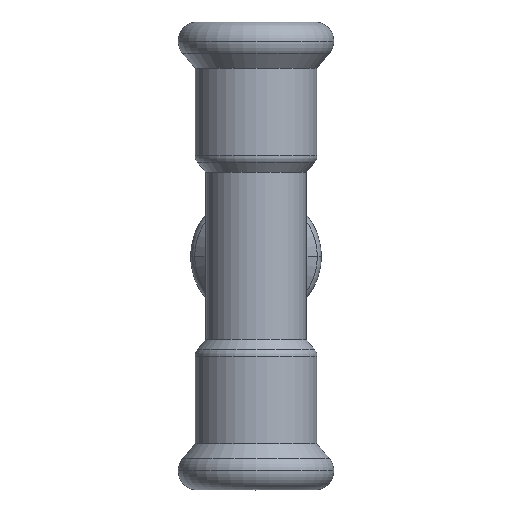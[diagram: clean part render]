
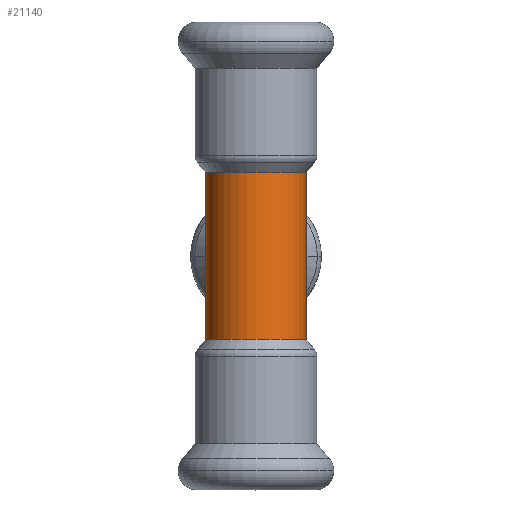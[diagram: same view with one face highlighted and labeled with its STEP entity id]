
A CAD part, top view. The second image highlights one B-rep face of the part: STEP entity #21140.
In plain terms, the highlighted cylindrical face has radius 7.5 mm (diameter 15 mm), a partial arc.
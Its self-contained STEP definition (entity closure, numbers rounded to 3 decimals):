
#2830=CARTESIAN_POINT('',(-98.071,15.24,
12.5));
#2840=DIRECTION('',(0.,0.,1.));
#2850=DIRECTION('',(-1.,0.,0.));
#2860=AXIS2_PLACEMENT_3D('',#2830,#2840,#2850);
#2870=CYLINDRICAL_SURFACE('',#2860,7.5);
#7060=CARTESIAN_POINT('',(-90.571,15.24,
12.5));
#7070=VERTEX_POINT('',#7060);
#7250=CARTESIAN_POINT('',(-105.571,15.24,
12.5));
#7260=VERTEX_POINT('',#7250);
#7290=CARTESIAN_POINT('',(-98.071,15.24,
12.5));
#7300=DIRECTION('',(0.,0.,1.));
#7310=DIRECTION('',(-1.,0.,0.));
#7320=AXIS2_PLACEMENT_3D('',#7290,#7300,#7310);
#7330=CIRCLE('',#7320,7.5);
#8270=CARTESIAN_POINT('',(-105.571,15.24,
-12.5));
#8280=VERTEX_POINT('',#8270);
#8360=CARTESIAN_POINT('',(-90.571,15.24,
-12.5));
#8370=VERTEX_POINT('',#8360);
#8400=CARTESIAN_POINT('',(-98.071,15.24,
-12.5));
#8410=DIRECTION('',(0.,0.,1.));
#8420=DIRECTION('',(-1.,0.,0.));
#8430=AXIS2_PLACEMENT_3D('',#8400,#8410,#8420);
#8440=CIRCLE('',#8430,7.5);
#15560=CARTESIAN_POINT('',(-90.571,15.24,
12.5));
#15570=DIRECTION('',(0.,0.,1.));
#15580=VECTOR('',#15570,1.);
#15590=LINE('',#15560,#15580);
#15600=EDGE_CURVE('',#8370,#7070,#15590,.T.);
#15630=CARTESIAN_POINT('',(-105.571,15.24,
12.5));
#15640=DIRECTION('',(0.,0.,1.));
#15650=VECTOR('',#15640,1.);
#15660=LINE('',#15630,#15650);
#15670=EDGE_CURVE('',#8280,#7260,#15660,.T.);
#21060=EDGE_CURVE('',#7260,#7070,#7330,.T.);
#21070=ORIENTED_EDGE('',*,*,#21060,.F.);
#21080=ORIENTED_EDGE('',*,*,#15600,.T.);
#21090=EDGE_CURVE('',#8280,#8370,#8440,.T.);
#21100=ORIENTED_EDGE('',*,*,#21090,.T.);
#21110=ORIENTED_EDGE('',*,*,#15670,.F.);
#21120=EDGE_LOOP('',(#21110,#21100,#21080,#21070));
#21130=FACE_OUTER_BOUND('',#21120,.T.);
#21140=ADVANCED_FACE('',(#21130),#2870,.T.);
